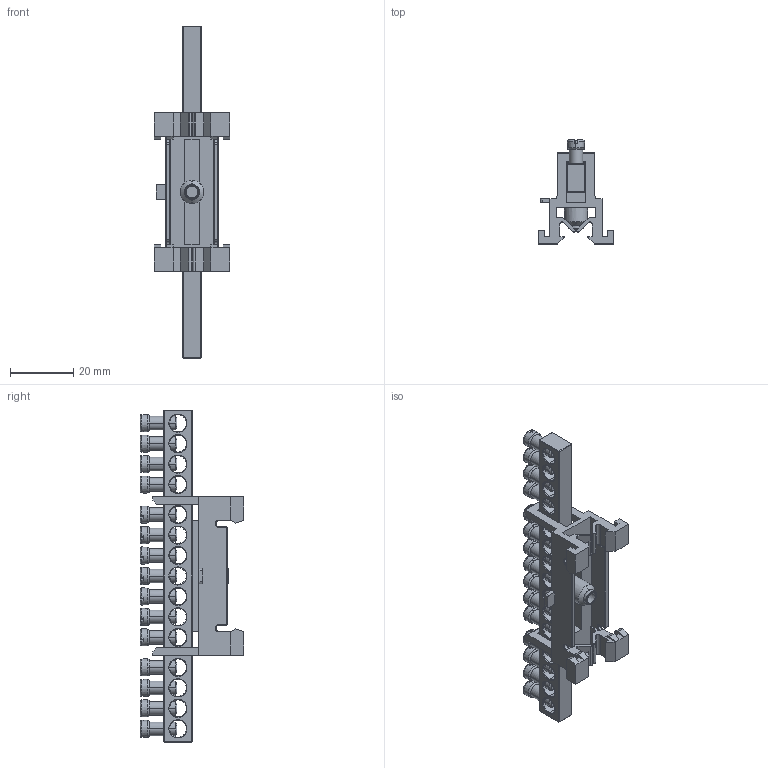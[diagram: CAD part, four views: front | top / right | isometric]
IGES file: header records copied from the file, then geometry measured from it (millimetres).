
Start section: SolidWorks IGES file using analytic representation for surfaces
Global section: file name: U:\14_RD\05_Technical_office\04_Office\Hrdinova\3D modely - IGES\Minia\CS-N15.IGS; native system: SolidWorks 2011; preprocessor: SolidWorks 2011; author: adhrja3; date: 170615.073232; units: millimetre
Bounding box: 23.7 x 32.67 x 104.6 mm (x, y, z)
Surface area: 13360.6 mm2 (no closed solid volume)
Topology: 0 solids, 0 shells, 947 faces, 8550 edges, 8550 vertices
Faces by surface type: bspline 647, revolution 300
